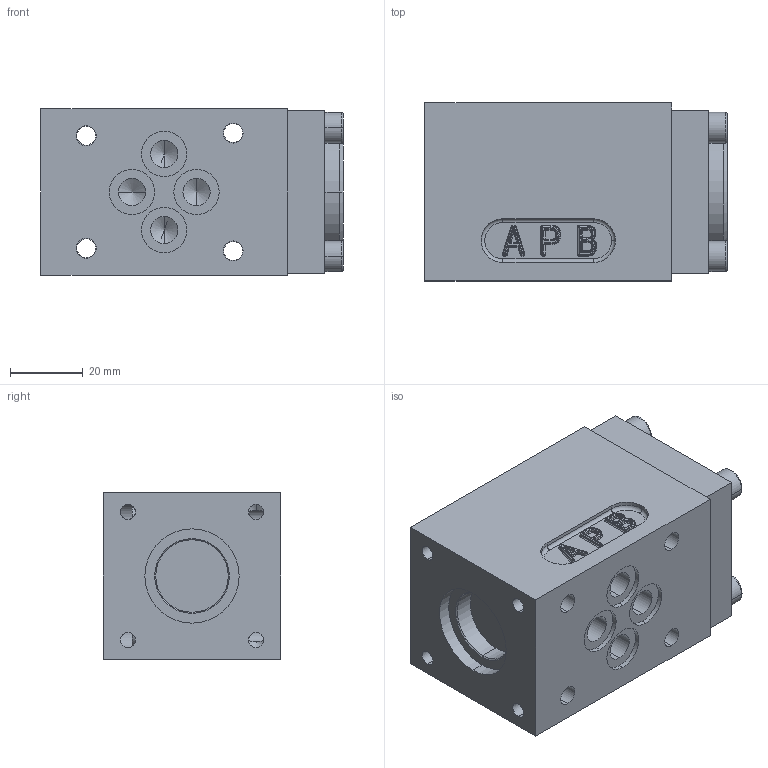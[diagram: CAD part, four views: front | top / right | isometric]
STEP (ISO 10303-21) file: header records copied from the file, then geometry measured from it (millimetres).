
FILE_DESCRIPTION (( 'STEP AP214' ), '1' );
FILE_NAME ('WDRFA06.STEP', '2014-07-14T11:35:16', ( '' ), ( '' ), 'SwSTEP 2.0', 'SolidWorks 2014', '' );
FILE_SCHEMA (( 'AUTOMOTIVE_DESIGN' ));
Length unit declared in the file: millimetre
Products named in the file (2): WDRFA06
Bounding box: 83.3 x 49 x 46 mm (x, y, z)
Volume: 161974.7 mm3; surface area: 37544.2 mm2
Topology: 10 solids, 10 shells, 645 faces, 1455 edges, 809 vertices
Faces by surface type: cylinder 253, plane 150, torus 83, sphere 57, bspline 52, cone 50
Entity records: 27815 total; most frequent: CARTESIAN_POINT 6393, DIRECTION 3211, ORIENTED_EDGE 2774, EDGE_CURVE 1387, AXIS2_PLACEMENT_3D 1327, VERTEX_POINT 808, CIRCLE 732, EDGE_LOOP 727
